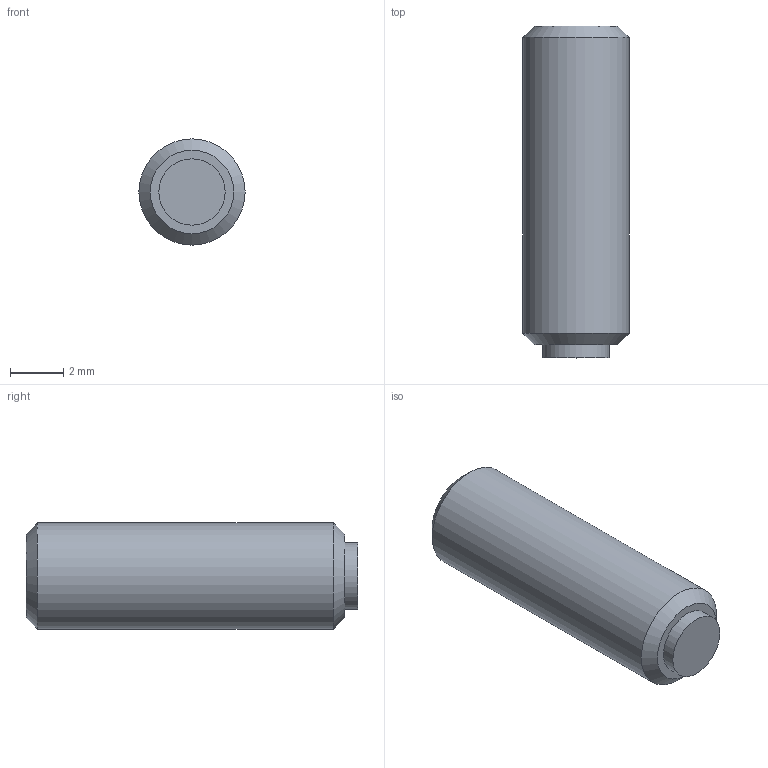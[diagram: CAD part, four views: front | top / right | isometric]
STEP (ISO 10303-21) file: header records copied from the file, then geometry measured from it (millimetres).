
FILE_DESCRIPTION( ( 'STEP AP203' ), '1' );
FILE_NAME( 'C:/Temp/Ganter_Step_05_03_2020/data/3_2/gn913_3/Grub screw GN 913.3-M4-12-MS.stp', '2020-03-13T05:35:45', ( 'License CC BY-ND 4.0' ), ( 'CADENAS' ), ' ', 'PARTsolutions', ' ' );
FILE_SCHEMA( ( 'CONFIG_CONTROL_DESIGN' ) );
Length unit declared in the file: millimetre
Products named in the file (1): _Grub screw GN 913.3-M4-12-MS
Bounding box: 4 x 12.5 x 4 mm (x, y, z)
Volume: 142.4 mm3; surface area: 190.4 mm2
Topology: 1 solids, 1 shells, 14 faces, 28 edges, 18 vertices
Faces by surface type: plane 10, cylinder 2, cone 2
Full cylindrical faces by diameter (mm): 2.5 x1, 4 x1
Entity records: 386 total; most frequent: DIRECTION 60, CARTESIAN_POINT 57, ORIENTED_EDGE 48, EDGE_CURVE 24, AXIS2_PLACEMENT_3D 21, EDGE_LOOP 20, VERTEX_POINT 18, LINE 18
